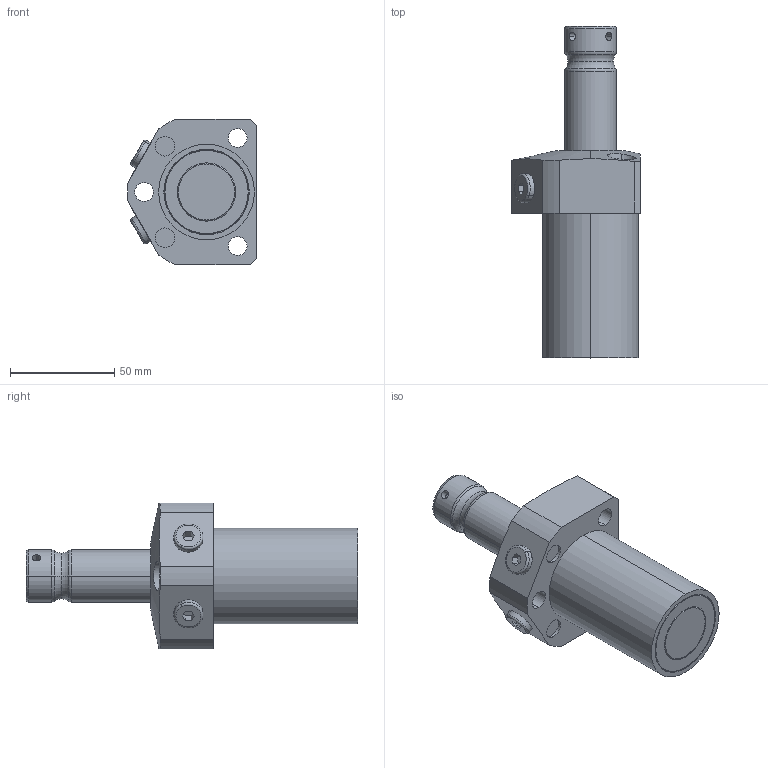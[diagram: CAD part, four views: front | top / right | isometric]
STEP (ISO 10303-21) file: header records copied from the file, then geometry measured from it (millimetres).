
FILE_DESCRIPTION (( 'STEP AP203' ), '1' );
FILE_NAME ('231601-CL.STEP', '2019-06-29T08:09:29', ( '微软用户' ), ( '微软中国' ), 'SwSTEP 2.0', 'SolidWorks 2014', '' );
FILE_SCHEMA (( 'CONFIG_CONTROL_DESIGN' ));
Length unit declared in the file: millimetre
Products named in the file (5): 葩璃 231601.04^231601-CL; 231601-CL; 葩璃 231601.02^231601-CL; 葩璃 4BN-02WD^231601-CL; 葩璃 231601.01^231601-CL
Assembly tree (5 placements, depth 2):
  231601-CL
    葩璃 231601.02^231601-CL
    葩璃 4BN-02WD^231601-CL  x2
    葩璃 231601.01^231601-CL
    葩璃 231601.04^231601-CL
Bounding box: 61.97 x 159.5 x 70 mm (x, y, z)
Volume: 260852.4 mm3; surface area: 39081.5 mm2
Topology: 5 solids, 5 shells, 135 faces, 284 edges, 176 vertices
Faces by surface type: cylinder 51, plane 46, torus 20, cone 18
Entity records: 3900 total; most frequent: CARTESIAN_POINT 922, DIRECTION 565, ORIENTED_EDGE 460, AXIS2_PLACEMENT_3D 237, EDGE_CURVE 230, VERTEX_POINT 144, EDGE_LOOP 130, CIRCLE 120
